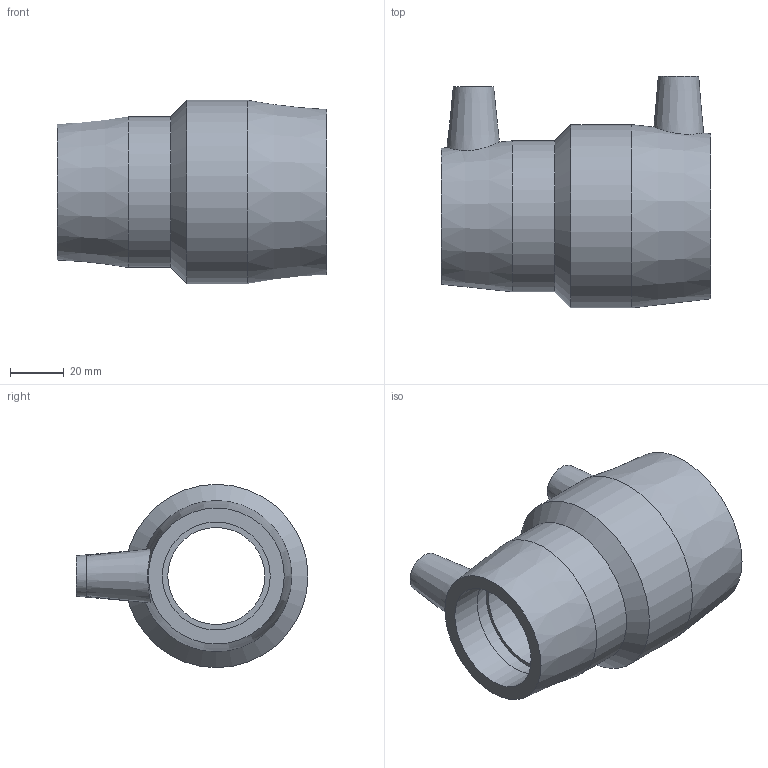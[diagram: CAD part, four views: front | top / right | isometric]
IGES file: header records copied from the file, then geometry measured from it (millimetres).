
Global section: file name: 491104050040.ipt; native system: Autodesk Inventor 2015; preprocessor: unknown; author: KIM; date: 20171106.093721; units: millimetre
Bounding box: 100 x 86 x 68 mm (x, y, z)
Volume: 138949.9 mm3; surface area: 40043.2 mm2
Topology: 1 solids, 1 shells, 31 faces, 72 edges, 51 vertices
Faces by surface type: plane 12, revolution 10, cone 5, cylinder 4
Full cylindrical faces by diameter (mm): 4 x2, 56 x1, 68 x1
